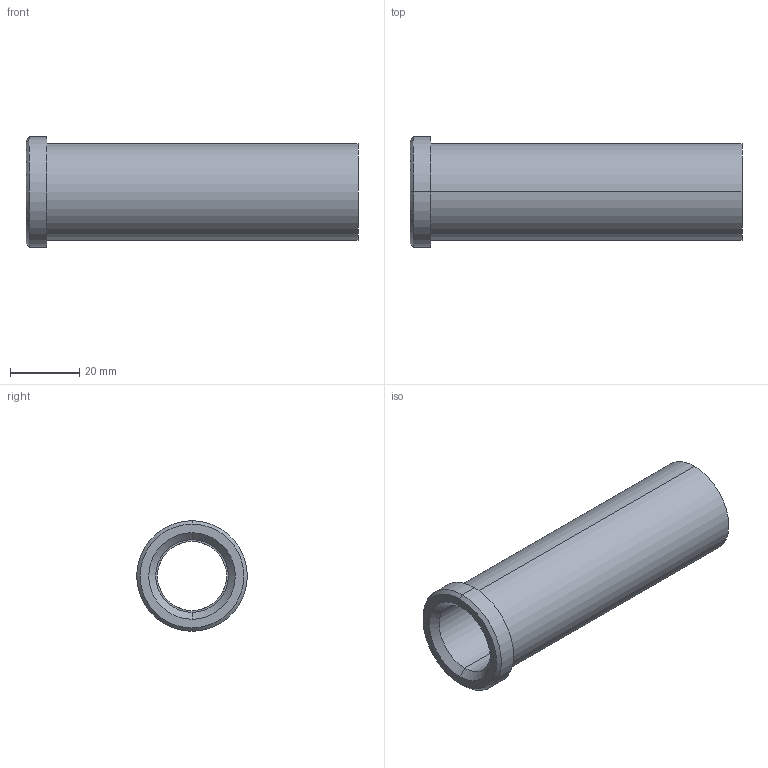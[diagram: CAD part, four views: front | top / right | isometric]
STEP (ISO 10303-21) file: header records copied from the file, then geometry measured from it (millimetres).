
FILE_DESCRIPTION(('CATIA V5 STEP Exchange'),'2;1');
FILE_NAME('C:\Users\Utente\Desktop\IO LAVORO\3D X SITO CF\X SITO\PLASTICA\353\353-20X96.stp','2021-05-08T08:53:17+00:00',('none'),('none'),'CATIA Version 5 Release 20 GA (IN-10)','CATIA V5 STEP AP203','none');
FILE_SCHEMA(('CONFIG_CONTROL_DESIGN'));
Length unit declared in the file: millimetre
Products named in the file (1): 353-20X96
Bounding box: 96 x 32 x 32 mm (x, y, z)
Volume: 28059.7 mm3; surface area: 15536.2 mm2
Topology: 1 solids, 1 shells, 18 faces, 58 edges, 44 vertices
Faces by surface type: cylinder 8, plane 4, cone 4, torus 2
Entity records: 840 total; most frequent: CARTESIAN_POINT 289, ORIENTED_EDGE 116, DIRECTION 82, EDGE_CURVE 58, AXIS2_PLACEMENT_3D 53, VERTEX_POINT 44, CIRCLE 34, EDGE_LOOP 22
